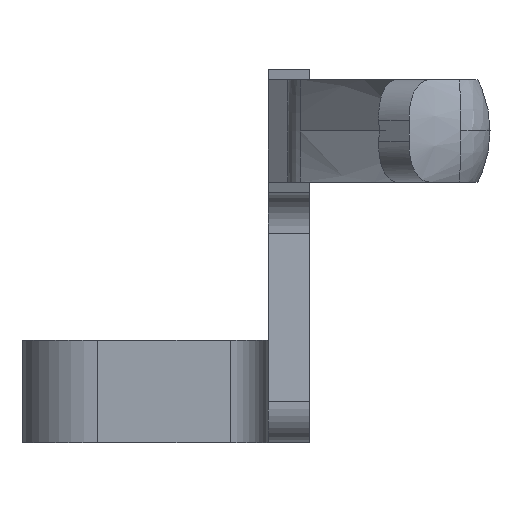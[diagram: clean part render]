
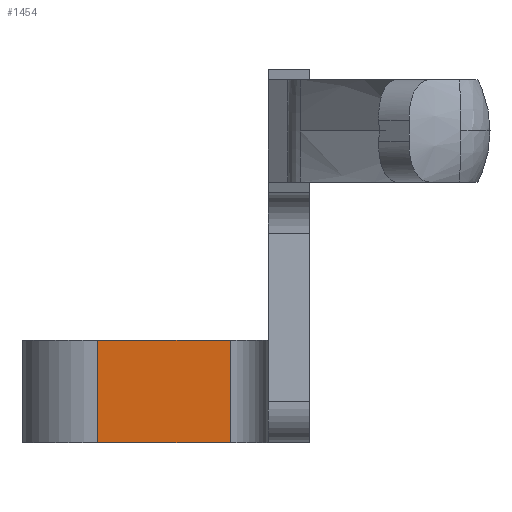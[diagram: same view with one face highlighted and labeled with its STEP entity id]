
A CAD part, front view. The second image highlights one B-rep face of the part: STEP entity #1454.
In plain terms, the highlighted planar face has unit normal (-0.08, -0.997, 0).
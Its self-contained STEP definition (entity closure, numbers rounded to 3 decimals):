
#563=DIRECTION('',(0.,0.,1.));
#564=VECTOR('',#563,0.5);
#565=CARTESIAN_POINT('',(-0.384,9.039,-1.52));
#566=LINE('',#565,#564);
#571=DIRECTION('',(-0.997,0.08,0.));
#572=VECTOR('',#571,0.65);
#573=CARTESIAN_POINT('',(-0.384,9.039,-1.52));
#574=LINE('',#573,#572);
#583=DIRECTION('',(-0.997,0.08,0.));
#584=VECTOR('',#583,0.65);
#585=CARTESIAN_POINT('',(-0.384,9.039,-1.02));
#586=LINE('',#585,#584);
#609=DIRECTION('',(0.,0.,-1.));
#610=VECTOR('',#609,0.5);
#611=CARTESIAN_POINT('',(-1.032,9.091,-1.02));
#612=LINE('',#611,#610);
#801=CARTESIAN_POINT('',(-0.384,9.039,-1.52));
#802=VERTEX_POINT('',#801);
#805=CARTESIAN_POINT('',(-0.384,9.039,-1.02));
#806=VERTEX_POINT('',#805);
#807=CARTESIAN_POINT('',(-1.032,9.091,-1.52));
#808=VERTEX_POINT('',#807);
#809=CARTESIAN_POINT('',(-1.032,9.091,-1.02));
#810=VERTEX_POINT('',#809);
#1440=CARTESIAN_POINT('',(-1.032,9.091,-1.02));
#1441=DIRECTION('',(-0.08,-0.997,0.));
#1442=DIRECTION('',(0.997,-0.08,0.));
#1443=AXIS2_PLACEMENT_3D('',#1440,#1441,#1442);
#1444=PLANE('',#1443);
#1446=ORIENTED_EDGE('',*,*,#1445,.T.);
#1448=ORIENTED_EDGE('',*,*,#1447,.F.);
#1450=ORIENTED_EDGE('',*,*,#1449,.F.);
#1451=ORIENTED_EDGE('',*,*,#1433,.F.);
#1452=EDGE_LOOP('',(#1446,#1448,#1450,#1451));
#1453=FACE_OUTER_BOUND('',#1452,.F.);
#1454=ADVANCED_FACE('',(#1453),#1444,.T.);
#1433=EDGE_CURVE('',#802,#806,#566,.T.);
#1445=EDGE_CURVE('',#802,#808,#574,.T.);
#1447=EDGE_CURVE('',#810,#808,#612,.T.);
#1449=EDGE_CURVE('',#806,#810,#586,.T.);
